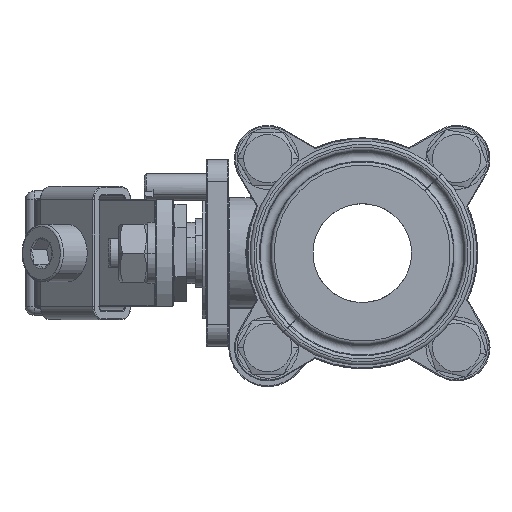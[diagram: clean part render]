
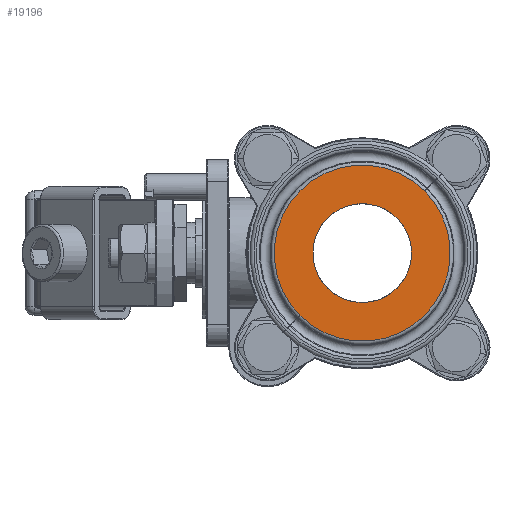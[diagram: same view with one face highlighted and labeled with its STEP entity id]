
A CAD part, left-side view. The second image highlights one B-rep face of the part: STEP entity #19196.
In plain terms, the highlighted planar face has unit normal (-1, 0, 0) as drawn and (0, 0, 1) by its records, which use the part's own axes.
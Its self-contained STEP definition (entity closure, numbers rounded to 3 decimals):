
#586 = DIRECTION ( 'NONE',  ( 0., 0., -1. ) ) ;
#2580 = CARTESIAN_POINT ( 'NONE',  ( 0., 0., 39. ) ) ;
#3537 = CARTESIAN_POINT ( 'NONE',  ( 0., 0., 39. ) ) ;
#3955 = DIRECTION ( 'NONE',  ( 1., 0., 0. ) ) ;
#5324 = EDGE_LOOP ( 'NONE', ( #24470, #10899 ) ) ;
#5704 = VERTEX_POINT ( 'NONE', #9467 ) ;
#5752 = VERTEX_POINT ( 'NONE', #9647 ) ;
#6745 = DIRECTION ( 'NONE',  ( 0., 0., 1. ) ) ;
#7777 = ORIENTED_EDGE ( 'NONE', *, *, #17126, .T. ) ;
#7858 = FACE_OUTER_BOUND ( 'NONE', #5324, .T. ) ;
#7895 = DIRECTION ( 'NONE',  ( 0., 0., -1. ) ) ;
#9467 = CARTESIAN_POINT ( 'NONE',  ( 19.797, 0., 39. ) ) ;
#9647 = CARTESIAN_POINT ( 'NONE',  ( 11.1, 0., 39. ) ) ;
#9728 = DIRECTION ( 'NONE',  ( -1., 0., 0. ) ) ;
#10059 = DIRECTION ( 'NONE',  ( -1., 0., 0. ) ) ;
#10899 = ORIENTED_EDGE ( 'NONE', *, *, #23222, .F. ) ;
#11000 = CIRCLE ( 'NONE', #24884, 11.1 ) ;
#12128 = EDGE_LOOP ( 'NONE', ( #24652, #7777 ) ) ;
#13759 = VERTEX_POINT ( 'NONE', #23138 ) ;
#14213 = AXIS2_PLACEMENT_3D ( 'NONE', #2580, #586, #26119 ) ;
#15935 = FACE_BOUND ( 'NONE', #12128, .T. ) ;
#16608 = AXIS2_PLACEMENT_3D ( 'NONE', #17577, #6745, #19824 ) ;
#17126 = EDGE_CURVE ( 'NONE', #5752, #18893, #11000, .T. ) ;
#17577 = CARTESIAN_POINT ( 'NONE',  ( 0., 19.797, 39. ) ) ;
#18025 = DIRECTION ( 'NONE',  ( 0., 0., -1. ) ) ;
#18893 = VERTEX_POINT ( 'NONE', #20692 ) ;
#18900 = AXIS2_PLACEMENT_3D ( 'NONE', #22612, #18025, #9728 ) ;
#18954 = CARTESIAN_POINT ( 'NONE',  ( 0., 0., 39. ) ) ;
#19196 = ADVANCED_FACE ( 'NONE', ( #15935, #7858 ), #21697, .T. ) ;
#19824 = DIRECTION ( 'NONE',  ( 1., 0., 0. ) ) ;
#20585 = CIRCLE ( 'NONE', #18900, 19.797 ) ;
#20692 = CARTESIAN_POINT ( 'NONE',  ( -11.1, 0., 39. ) ) ;
#20870 = AXIS2_PLACEMENT_3D ( 'NONE', #3537, #7895, #10059 ) ;
#21697 = PLANE ( 'NONE',  #16608 ) ;
#21829 = EDGE_CURVE ( 'NONE', #18893, #5752, #21936, .T. ) ;
#21936 = CIRCLE ( 'NONE', #14213, 11.1 ) ;
#22612 = CARTESIAN_POINT ( 'NONE',  ( 0., 0., 39. ) ) ;
#22697 = EDGE_CURVE ( 'NONE', #13759, #5704, #25287, .T. ) ;
#23138 = CARTESIAN_POINT ( 'NONE',  ( -19.797, 0., 39. ) ) ;
#23222 = EDGE_CURVE ( 'NONE', #5704, #13759, #20585, .T. ) ;
#23426 = DIRECTION ( 'NONE',  ( 0., 0., -1. ) ) ;
#24470 = ORIENTED_EDGE ( 'NONE', *, *, #22697, .F. ) ;
#24652 = ORIENTED_EDGE ( 'NONE', *, *, #21829, .T. ) ;
#24884 = AXIS2_PLACEMENT_3D ( 'NONE', #18954, #23426, #3955 ) ;
#25287 = CIRCLE ( 'NONE', #20870, 19.797 ) ;
#26119 = DIRECTION ( 'NONE',  ( 1., 0., 0. ) ) ;
